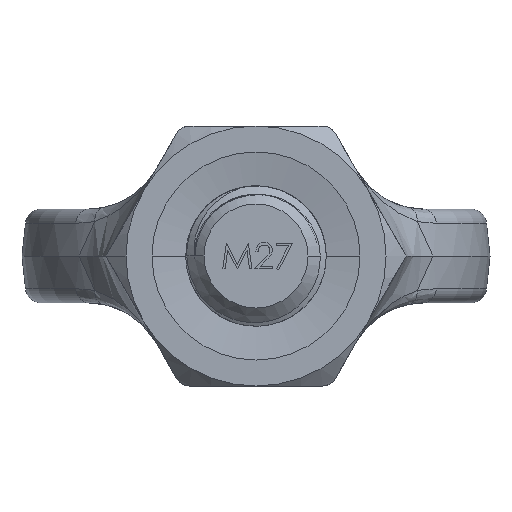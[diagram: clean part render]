
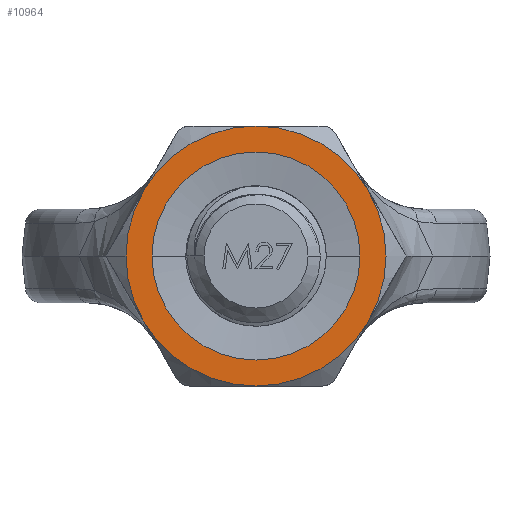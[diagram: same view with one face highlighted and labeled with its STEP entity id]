
A CAD part, front view. The second image highlights one B-rep face of the part: STEP entity #10964.
In plain terms, the highlighted planar face has unit normal (0, -1, 0).
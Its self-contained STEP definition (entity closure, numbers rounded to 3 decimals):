
#2484 = CARTESIAN_POINT ( 'NONE',  ( -20., -57., 0. ) ) ;
#2528 = CARTESIAN_POINT ( 'NONE',  ( -25., -57., 0. ) ) ;
#2531 = CARTESIAN_POINT ( 'NONE',  ( 20., -57., 0. ) ) ;
#2594 = CARTESIAN_POINT ( 'NONE',  ( -21.651, -57., -12.5 ) ) ;
#4576 = AXIS2_PLACEMENT_3D ( 'NONE', #28639, #28640, #28641 ) ;
#10964 = ADVANCED_FACE ( 'NONE', ( #24848, #24849 ), #28632, .F. ) ;
#12663 = VERTEX_POINT ( 'NONE', #32596 ) ;
#12671 = VERTEX_POINT ( 'NONE', #32604 ) ;
#12679 = VERTEX_POINT ( 'NONE', #32612 ) ;
#12684 = VERTEX_POINT ( 'NONE', #32617 ) ;
#12689 = VERTEX_POINT ( 'NONE', #32622 ) ;
#14350 = EDGE_LOOP ( 'NONE', ( #18054, #18055 ) ) ;
#14367 = EDGE_LOOP ( 'NONE', ( #18047, #18048, #18049, #18050, #18051, #18052, #18053 ) ) ;
#16180 = EDGE_CURVE ( 'NONE', #12689, #12671, #31196, .T. ) ;
#16181 = EDGE_CURVE ( 'NONE', #20725, #12663, #31195, .T. ) ;
#16182 = EDGE_CURVE ( 'NONE', #12671, #12684, #31197, .T. ) ;
#16183 = EDGE_CURVE ( 'NONE', #12684, #12679, #31198, .T. ) ;
#16184 = EDGE_CURVE ( 'NONE', #12679, #20791, #31199, .T. ) ;
#16185 = EDGE_CURVE ( 'NONE', #20681, #20728, #31200, .T. ) ;
#16186 = EDGE_CURVE ( 'NONE', #12663, #12689, #31201, .T. ) ;
#16259 = EDGE_CURVE ( 'NONE', #20791, #20725, #31319, .T. ) ;
#16260 = EDGE_CURVE ( 'NONE', #20728, #20681, #31320, .T. ) ;
#18047 = ORIENTED_EDGE ( 'NONE', *, *, #16186, .F. ) ;
#18048 = ORIENTED_EDGE ( 'NONE', *, *, #16181, .F. ) ;
#18049 = ORIENTED_EDGE ( 'NONE', *, *, #16259, .F. ) ;
#18050 = ORIENTED_EDGE ( 'NONE', *, *, #16184, .F. ) ;
#18051 = ORIENTED_EDGE ( 'NONE', *, *, #16183, .F. ) ;
#18052 = ORIENTED_EDGE ( 'NONE', *, *, #16182, .F. ) ;
#18053 = ORIENTED_EDGE ( 'NONE', *, *, #16180, .F. ) ;
#18054 = ORIENTED_EDGE ( 'NONE', *, *, #16260, .T. ) ;
#18055 = ORIENTED_EDGE ( 'NONE', *, *, #16185, .T. ) ;
#20681 = VERTEX_POINT ( 'NONE', #2484 ) ;
#20725 = VERTEX_POINT ( 'NONE', #2528 ) ;
#20728 = VERTEX_POINT ( 'NONE', #2531 ) ;
#20791 = VERTEX_POINT ( 'NONE', #2594 ) ;
#24848 = FACE_OUTER_BOUND ( 'NONE', #14367, .T. ) ;
#24849 = FACE_BOUND ( 'NONE', #14350, .T. ) ;
#28632 = PLANE ( 'NONE',  #4576 ) ;
#28639 = CARTESIAN_POINT ( 'NONE',  ( -25., -57., 0. ) ) ;
#28640 = DIRECTION ( 'NONE',  ( 0., 1., 0. ) ) ;
#28641 = DIRECTION ( 'NONE',  ( -1., 0., 0. ) ) ;
#30222 = AXIS2_PLACEMENT_3D ( 'NONE', #38602, #38603, #38604 ) ;
#30223 = AXIS2_PLACEMENT_3D ( 'NONE', #38605, #38606, #38607 ) ;
#30224 = AXIS2_PLACEMENT_3D ( 'NONE', #38608, #38609, #38610 ) ;
#30225 = AXIS2_PLACEMENT_3D ( 'NONE', #38611, #38612, #38613 ) ;
#30226 = AXIS2_PLACEMENT_3D ( 'NONE', #38614, #38615, #38616 ) ;
#30227 = AXIS2_PLACEMENT_3D ( 'NONE', #38617, #38618, #38619 ) ;
#30228 = AXIS2_PLACEMENT_3D ( 'NONE', #38622, #38623, #38624 ) ;
#30233 = AXIS2_PLACEMENT_3D ( 'NONE', #39536, #39537, #39538 ) ;
#30234 = AXIS2_PLACEMENT_3D ( 'NONE', #39539, #39540, #39541 ) ;
#31195 = CIRCLE ( 'NONE', #30223, 25. ) ;
#31196 = CIRCLE ( 'NONE', #30222, 25. ) ;
#31197 = CIRCLE ( 'NONE', #30224, 25. ) ;
#31198 = CIRCLE ( 'NONE', #30225, 25. ) ;
#31199 = CIRCLE ( 'NONE', #30226, 25. ) ;
#31200 = CIRCLE ( 'NONE', #30227, 20. ) ;
#31201 = CIRCLE ( 'NONE', #30228, 25. ) ;
#31319 = CIRCLE ( 'NONE', #30233, 25. ) ;
#31320 = CIRCLE ( 'NONE', #30234, 20. ) ;
#32596 = CARTESIAN_POINT ( 'NONE',  ( -21.651, -57., 12.5 ) ) ;
#32604 = CARTESIAN_POINT ( 'NONE',  ( 21.651, -57., 12.5 ) ) ;
#32612 = CARTESIAN_POINT ( 'NONE',  ( 0., -57., -25. ) ) ;
#32617 = CARTESIAN_POINT ( 'NONE',  ( 21.651, -57., -12.5 ) ) ;
#32622 = CARTESIAN_POINT ( 'NONE',  ( 0., -57., 25. ) ) ;
#38602 = CARTESIAN_POINT ( 'NONE',  ( 0., -57., 0. ) ) ;
#38603 = DIRECTION ( 'NONE',  ( 0., 1., 0. ) ) ;
#38604 = DIRECTION ( 'NONE',  ( -1., 0., 0. ) ) ;
#38605 = CARTESIAN_POINT ( 'NONE',  ( 0., -57., 0. ) ) ;
#38606 = DIRECTION ( 'NONE',  ( 0., 1., 0. ) ) ;
#38607 = DIRECTION ( 'NONE',  ( -1., 0., 0. ) ) ;
#38608 = CARTESIAN_POINT ( 'NONE',  ( 0., -57., 0. ) ) ;
#38609 = DIRECTION ( 'NONE',  ( 0., 1., 0. ) ) ;
#38610 = DIRECTION ( 'NONE',  ( -1., 0., 0. ) ) ;
#38611 = CARTESIAN_POINT ( 'NONE',  ( 0., -57., 0. ) ) ;
#38612 = DIRECTION ( 'NONE',  ( 0., 1., 0. ) ) ;
#38613 = DIRECTION ( 'NONE',  ( -1., 0., 0. ) ) ;
#38614 = CARTESIAN_POINT ( 'NONE',  ( 0., -57., 0. ) ) ;
#38615 = DIRECTION ( 'NONE',  ( 0., 1., 0. ) ) ;
#38616 = DIRECTION ( 'NONE',  ( -1., 0., 0. ) ) ;
#38617 = CARTESIAN_POINT ( 'NONE',  ( 0., -57., 0. ) ) ;
#38618 = DIRECTION ( 'NONE',  ( 0., 1., 0. ) ) ;
#38619 = DIRECTION ( 'NONE',  ( -1., 0., 0. ) ) ;
#38622 = CARTESIAN_POINT ( 'NONE',  ( 0., -57., 0. ) ) ;
#38623 = DIRECTION ( 'NONE',  ( 0., 1., 0. ) ) ;
#38624 = DIRECTION ( 'NONE',  ( -1., 0., 0. ) ) ;
#39536 = CARTESIAN_POINT ( 'NONE',  ( 0., -57., 0. ) ) ;
#39537 = DIRECTION ( 'NONE',  ( 0., 1., 0. ) ) ;
#39538 = DIRECTION ( 'NONE',  ( -1., 0., 0. ) ) ;
#39539 = CARTESIAN_POINT ( 'NONE',  ( 0., -57., 0. ) ) ;
#39540 = DIRECTION ( 'NONE',  ( 0., 1., 0. ) ) ;
#39541 = DIRECTION ( 'NONE',  ( -1., 0., 0. ) ) ;
